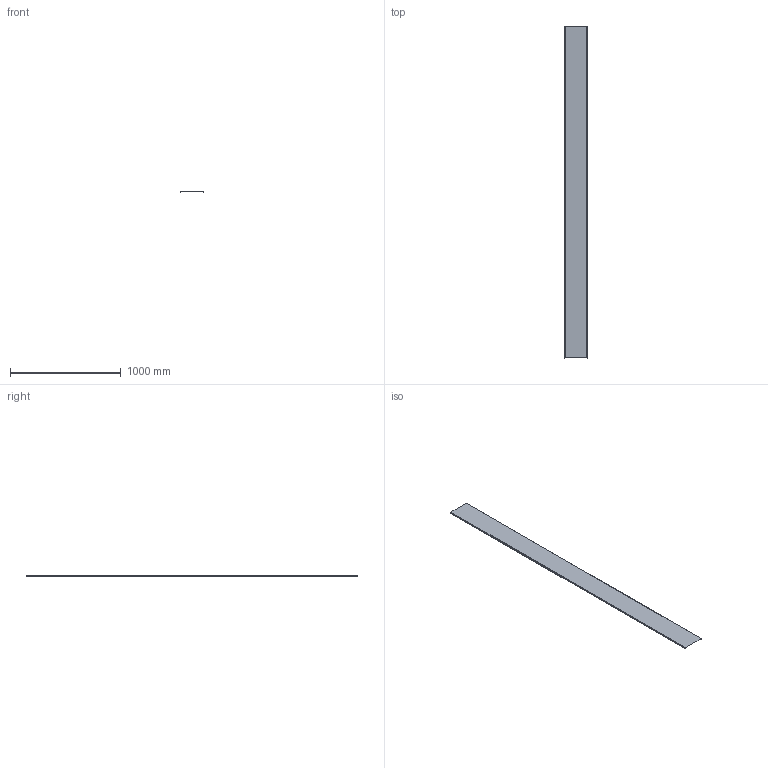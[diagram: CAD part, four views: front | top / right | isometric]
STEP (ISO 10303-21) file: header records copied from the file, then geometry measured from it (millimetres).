
FILE_DESCRIPTION(/* description */ ('','CAx-IF Rec.Pracs.---Representation and Presentation of Product Manufacturing Information (PMI)---4.0---2014-10-13'),/* implementation_level */ '2;1');
FILE_NAME(/* name */ 'GE-KTK1-20-S6.step',/* time_stamp */ '2025-03-24T13:28:49+03:00',/* author */ (''),/* organization */ (''),/* preprocessor_version */ 'ST-DEVELOPER v20',/* originating_system */ 'Autodesk Translation Framework v13.20.0.188',/* authorisation */ '');
FILE_SCHEMA (('AP242_MANAGED_MODEL_BASED_3D_ENGINEERING_MIM_LF { 1 0 10303 442 1 1 4 }'));
Length unit declared in the file: millimetre
Products named in the file (1): GE-KTK1-20-S6
Bounding box: 204 x 3000 x 12 mm (x, y, z)
Volume: 671562 mm3; surface area: 1349571.6 mm2
Topology: 1 solids, 1 shells, 14 faces, 36 edges, 24 vertices
Faces by surface type: plane 10, cylinder 4
Entity records: 461 total; most frequent: CARTESIAN_POINT 75, DIRECTION 74, ORIENTED_EDGE 72, EDGE_CURVE 36, LINE 28, VECTOR 28, VERTEX_POINT 24, AXIS2_PLACEMENT_3D 23
